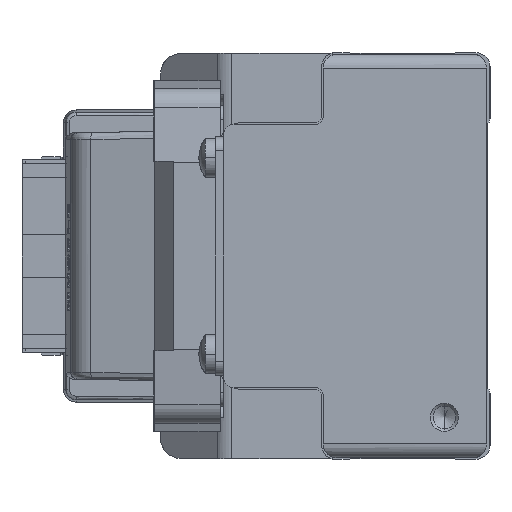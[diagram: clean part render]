
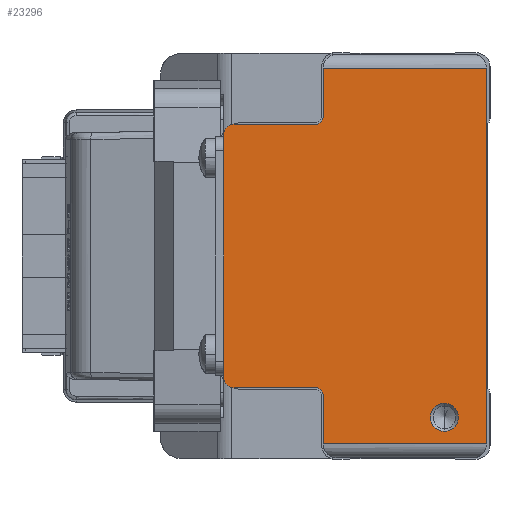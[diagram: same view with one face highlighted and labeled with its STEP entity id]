
A CAD part, left-side view. The second image highlights one B-rep face of the part: STEP entity #23296.
In plain terms, the highlighted planar face has unit normal (-1, 0, 0) as drawn and (0, 0, 1) by its records, which use the part's own axes.
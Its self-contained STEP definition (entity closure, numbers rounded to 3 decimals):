
#124 = VERTEX_POINT ( 'NONE', #21934 ) ;
#531 = EDGE_CURVE ( 'NONE', #28124, #39407, #14520, .T. ) ;
#1442 = AXIS2_PLACEMENT_3D ( 'NONE', #23372, #14203, #30757 ) ;
#1580 = AXIS2_PLACEMENT_3D ( 'NONE', #12986, #36891, #40235 ) ;
#2099 = ORIENTED_EDGE ( 'NONE', *, *, #44116, .T. ) ;
#2777 = DIRECTION ( 'NONE',  ( 0., -1., 0. ) ) ;
#2798 = CIRCLE ( 'NONE', #28509, 1. ) ;
#2943 = VERTEX_POINT ( 'NONE', #19133 ) ;
#3070 = DIRECTION ( 'NONE',  ( -1., 0., 0. ) ) ;
#3328 = EDGE_CURVE ( 'NONE', #32705, #40266, #8506, .T. ) ;
#3999 = EDGE_CURVE ( 'NONE', #4957, #7377, #8536, .T. ) ;
#4729 = EDGE_CURVE ( 'NONE', #40724, #7707, #9567, .T. ) ;
#4957 = VERTEX_POINT ( 'NONE', #7546 ) ;
#5192 = VECTOR ( 'NONE', #28827, 1000. ) ;
#5569 = ORIENTED_EDGE ( 'NONE', *, *, #25327, .T. ) ;
#5644 = ORIENTED_EDGE ( 'NONE', *, *, #3328, .T. ) ;
#6523 = PLANE ( 'NONE',  #1580 ) ;
#6795 = EDGE_CURVE ( 'NONE', #39407, #27140, #43691, .T. ) ;
#7252 = CARTESIAN_POINT ( 'NONE',  ( 17.3, 36.5, 720. ) ) ;
#7374 = LINE ( 'NONE', #20998, #35868 ) ;
#7377 = VERTEX_POINT ( 'NONE', #42779 ) ;
#7546 = CARTESIAN_POINT ( 'NONE',  ( -25., 6.5, 720. ) ) ;
#7707 = VERTEX_POINT ( 'NONE', #19472 ) ;
#8506 = LINE ( 'NONE', #28446, #10680 ) ;
#8536 = CIRCLE ( 'NONE', #27850, 2. ) ;
#8846 = CARTESIAN_POINT ( 'NONE',  ( -26.8, 23.8, 720. ) ) ;
#9567 = LINE ( 'NONE', #43015, #14206 ) ;
#9698 = EDGE_LOOP ( 'NONE', ( #19143, #21265, #5644, #2099, #14927, #25257, #5569, #27581, #37136, #28349, #37676, #27141 ) ) ;
#10680 = VECTOR ( 'NONE', #11609, 1000. ) ;
#10798 = VERTEX_POINT ( 'NONE', #40765 ) ;
#11609 = DIRECTION ( 'NONE',  ( -1., 0., 0. ) ) ;
#11638 = DIRECTION ( 'NONE',  ( -1., 0., 0. ) ) ;
#11700 = CARTESIAN_POINT ( 'NONE',  ( 19.8, 24.8, 720. ) ) ;
#12986 = CARTESIAN_POINT ( 'NONE',  ( -26.8, 21.8, 720. ) ) ;
#14203 = DIRECTION ( 'NONE',  ( 0., 0., 1. ) ) ;
#14206 = VECTOR ( 'NONE', #26318, 1000. ) ;
#14520 = LINE ( 'NONE', #21449, #5192 ) ;
#14908 = LINE ( 'NONE', #41697, #30180 ) ;
#14927 = ORIENTED_EDGE ( 'NONE', *, *, #37417, .T. ) ;
#15087 = CIRCLE ( 'NONE', #40020, 2. ) ;
#16102 = ORIENTED_EDGE ( 'NONE', *, *, #29382, .T. ) ;
#16122 = VERTEX_POINT ( 'NONE', #38474 ) ;
#17239 = EDGE_CURVE ( 'NONE', #124, #2943, #35641, .T. ) ;
#17425 = CARTESIAN_POINT ( 'NONE',  ( -19.8, 23.8, 720. ) ) ;
#18250 = DIRECTION ( 'NONE',  ( -1., 0., 0. ) ) ;
#18409 = DIRECTION ( 'NONE',  ( 1., 0., 0. ) ) ;
#18722 = EDGE_LOOP ( 'NONE', ( #24194, #16102 ) ) ;
#19133 = CARTESIAN_POINT ( 'NONE',  ( -18.8, 24.8, 720. ) ) ;
#19143 = ORIENTED_EDGE ( 'NONE', *, *, #17239, .T. ) ;
#19472 = CARTESIAN_POINT ( 'NONE',  ( 26.8, 0.5, 720. ) ) ;
#19820 = CIRCLE ( 'NONE', #39784, 1.5 ) ;
#19931 = FACE_BOUND ( 'NONE', #18722, .T. ) ;
#20025 = CARTESIAN_POINT ( 'NONE',  ( -23., 6.5, 720. ) ) ;
#20642 = EDGE_CURVE ( 'NONE', #32705, #2943, #20668, .T. ) ;
#20668 = CIRCLE ( 'NONE', #1442, 1. ) ;
#20998 = CARTESIAN_POINT ( 'NONE',  ( -26.8, 0.5, 720. ) ) ;
#21265 = ORIENTED_EDGE ( 'NONE', *, *, #20642, .F. ) ;
#21449 = CARTESIAN_POINT ( 'NONE',  ( 18.8, 24.8, 720. ) ) ;
#21594 = DIRECTION ( 'NONE',  ( 0., -1., 0. ) ) ;
#21798 = DIRECTION ( 'NONE',  ( 0., 0., 1. ) ) ;
#21834 = CARTESIAN_POINT ( 'NONE',  ( 18.8, 36.5, 720. ) ) ;
#21934 = CARTESIAN_POINT ( 'NONE',  ( -18.8, 36.5, 720. ) ) ;
#22255 = LINE ( 'NONE', #36291, #27431 ) ;
#23003 = EDGE_CURVE ( 'NONE', #10798, #124, #19820, .T. ) ;
#23296 = ADVANCED_FACE ( 'NONE', ( #19931, #30008 ), #6523, .T. ) ;
#23372 = CARTESIAN_POINT ( 'NONE',  ( -19.8, 24.8, 720. ) ) ;
#24194 = ORIENTED_EDGE ( 'NONE', *, *, #3999, .T. ) ;
#24445 = DIRECTION ( 'NONE',  ( 0., 0., 1. ) ) ;
#25257 = ORIENTED_EDGE ( 'NONE', *, *, #4729, .F. ) ;
#25327 = EDGE_CURVE ( 'NONE', #40724, #16122, #22255, .T. ) ;
#25889 = CARTESIAN_POINT ( 'NONE',  ( 18.8, 24.8, 720. ) ) ;
#26318 = DIRECTION ( 'NONE',  ( 0., -1., 0. ) ) ;
#26483 = CARTESIAN_POINT ( 'NONE',  ( -17.3, 36.5, 720. ) ) ;
#27141 = ORIENTED_EDGE ( 'NONE', *, *, #23003, .T. ) ;
#27140 = VERTEX_POINT ( 'NONE', #39208 ) ;
#27431 = VECTOR ( 'NONE', #42534, 1000. ) ;
#27510 = EDGE_CURVE ( 'NONE', #28124, #16122, #2798, .T. ) ;
#27581 = ORIENTED_EDGE ( 'NONE', *, *, #27510, .F. ) ;
#27850 = AXIS2_PLACEMENT_3D ( 'NONE', #20025, #33651, #3070 ) ;
#28124 = VERTEX_POINT ( 'NONE', #25889 ) ;
#28349 = ORIENTED_EDGE ( 'NONE', *, *, #6795, .T. ) ;
#28397 = VECTOR ( 'NONE', #21594, 1000. ) ;
#28446 = CARTESIAN_POINT ( 'NONE',  ( -19.8, 23.8, 720. ) ) ;
#28509 = AXIS2_PLACEMENT_3D ( 'NONE', #11700, #21798, #18409 ) ;
#28827 = DIRECTION ( 'NONE',  ( 0., 1., 0. ) ) ;
#29382 = EDGE_CURVE ( 'NONE', #7377, #4957, #15087, .T. ) ;
#30008 = FACE_OUTER_BOUND ( 'NONE', #9698, .T. ) ;
#30180 = VECTOR ( 'NONE', #18250, 1000. ) ;
#30757 = DIRECTION ( 'NONE',  ( 1., 0., 0. ) ) ;
#32705 = VERTEX_POINT ( 'NONE', #17425 ) ;
#33358 = CARTESIAN_POINT ( 'NONE',  ( -26.8, 24., 720. ) ) ;
#33651 = DIRECTION ( 'NONE',  ( 0., 0., -1. ) ) ;
#34483 = DIRECTION ( 'NONE',  ( 1., 0., 0. ) ) ;
#35194 = VERTEX_POINT ( 'NONE', #39345 ) ;
#35641 = LINE ( 'NONE', #41658, #28397 ) ;
#35868 = VECTOR ( 'NONE', #42998, 1000. ) ;
#36291 = CARTESIAN_POINT ( 'NONE',  ( 26.8, 23.8, 720. ) ) ;
#36891 = DIRECTION ( 'NONE',  ( 0., 0., 1. ) ) ;
#36941 = DIRECTION ( 'NONE',  ( 1., 0., 0. ) ) ;
#37136 = ORIENTED_EDGE ( 'NONE', *, *, #531, .T. ) ;
#37417 = EDGE_CURVE ( 'NONE', #35194, #7707, #7374, .T. ) ;
#37676 = ORIENTED_EDGE ( 'NONE', *, *, #43652, .T. ) ;
#37962 = VECTOR ( 'NONE', #2777, 1000. ) ;
#37997 = CARTESIAN_POINT ( 'NONE',  ( 26.8, 23.8, 720. ) ) ;
#38474 = CARTESIAN_POINT ( 'NONE',  ( 19.8, 23.8, 720. ) ) ;
#38680 = CARTESIAN_POINT ( 'NONE',  ( -23., 6.5, 720. ) ) ;
#39208 = CARTESIAN_POINT ( 'NONE',  ( 17.3, 38., 720. ) ) ;
#39345 = CARTESIAN_POINT ( 'NONE',  ( -26.8, 0.5, 720. ) ) ;
#39407 = VERTEX_POINT ( 'NONE', #21834 ) ;
#39784 = AXIS2_PLACEMENT_3D ( 'NONE', #26483, #43826, #36941 ) ;
#40020 = AXIS2_PLACEMENT_3D ( 'NONE', #38680, #42231, #11638 ) ;
#40235 = DIRECTION ( 'NONE',  ( 1., 0., 0. ) ) ;
#40266 = VERTEX_POINT ( 'NONE', #8846 ) ;
#40724 = VERTEX_POINT ( 'NONE', #37997 ) ;
#40765 = CARTESIAN_POINT ( 'NONE',  ( -17.3, 38., 720. ) ) ;
#41658 = CARTESIAN_POINT ( 'NONE',  ( -18.8, 36.5, 720. ) ) ;
#41697 = CARTESIAN_POINT ( 'NONE',  ( 17.3, 38., 720. ) ) ;
#42231 = DIRECTION ( 'NONE',  ( 0., 0., -1. ) ) ;
#42534 = DIRECTION ( 'NONE',  ( -1., 0., 0. ) ) ;
#42779 = CARTESIAN_POINT ( 'NONE',  ( -21., 6.5, 720. ) ) ;
#42982 = AXIS2_PLACEMENT_3D ( 'NONE', #7252, #24445, #34483 ) ;
#42998 = DIRECTION ( 'NONE',  ( 1., 0., 0. ) ) ;
#43015 = CARTESIAN_POINT ( 'NONE',  ( 26.8, 24., 720. ) ) ;
#43369 = LINE ( 'NONE', #33358, #37962 ) ;
#43652 = EDGE_CURVE ( 'NONE', #27140, #10798, #14908, .T. ) ;
#43691 = CIRCLE ( 'NONE', #42982, 1.5 ) ;
#43826 = DIRECTION ( 'NONE',  ( 0., 0., 1. ) ) ;
#44116 = EDGE_CURVE ( 'NONE', #40266, #35194, #43369, .T. ) ;
